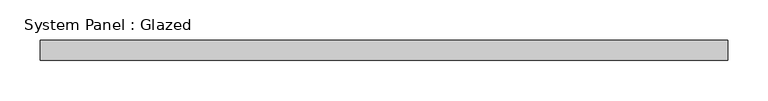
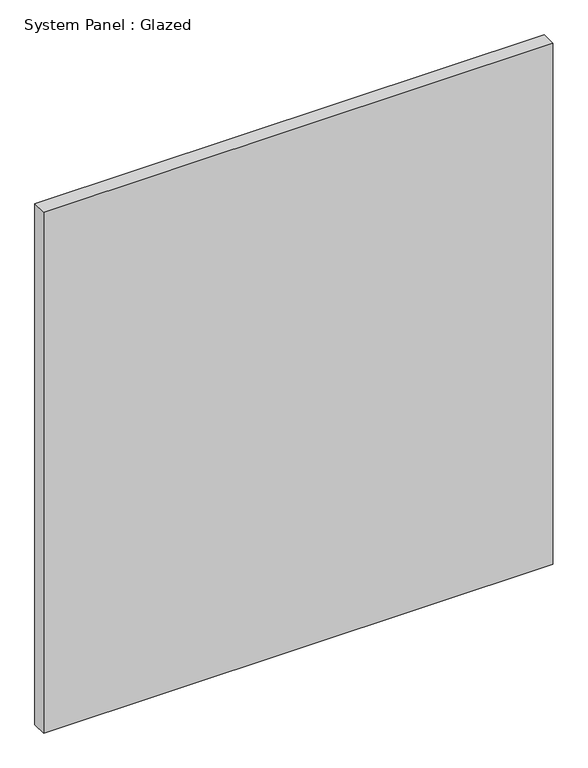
"""IFC4 building model written with IfcOpenShell, lengths in millimetres: plate geometry, System Panel : Glazed."""

from ifc_helpers import new_model, si_unit, origin, origin_with_axes, place, context, project, spatial, polyline, outline, extrude, source, transform, mapped, element, save


def system_panel_glazed_015eb620(model_context):
    return source(origin(), model_context, "Body", "SweptSolid", [
        extrude(outline(polyline([(427.5, 24.5), (-427.5, 24.5), (-427.5, 49.5), (427.5, 49.5), (427.5, 24.5)])), origin_with_axes(), (0.0, 0.0, 1.0), 925.0),
    ])


if __name__ == "__main__":
    model = new_model("IFC4")
    model_context = context("Model", 3, world=origin())
    ifc_project = project(units=[si_unit("LENGTHUNIT", "METRE", prefix="MILLI")], contexts=[model_context])
    site = spatial("IfcSite", under=ifc_project)
    building = spatial("IfcBuilding", under=site)
    placement = place(None, origin())
    system_panel_glazed_shape = system_panel_glazed_015eb620(model_context)
    element("IfcPlate", 1, ObjectType="System Panel : Glazed", at=placement, inside=building, context=model_context, shape_type="MappedRepresentation", body=[
        mapped(system_panel_glazed_shape, transform((0.0, 0.0, 0.0), x_axis=(1.0, 0.0, 0.0), y_axis=(0.0, 1.0, 0.0), z_axis=(0.0, 0.0, 1.0))),
    ])
    save(model, "model.ifc")
